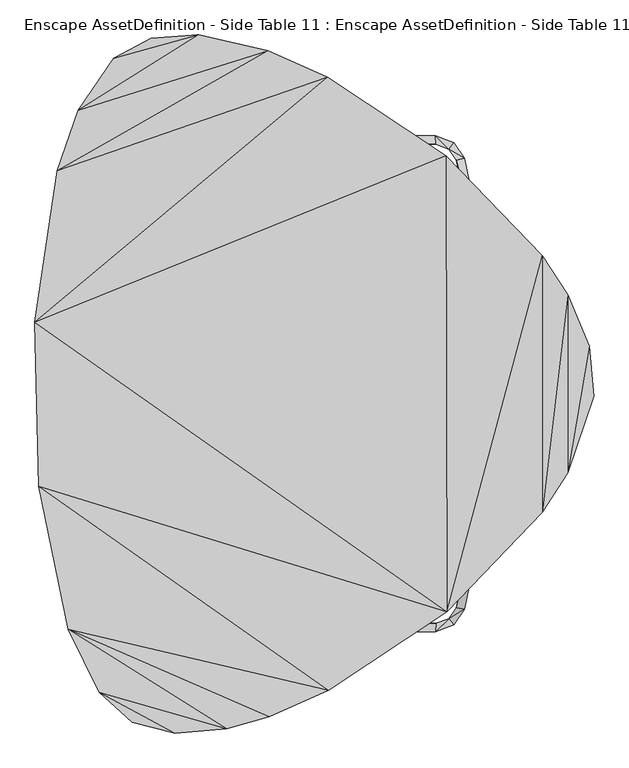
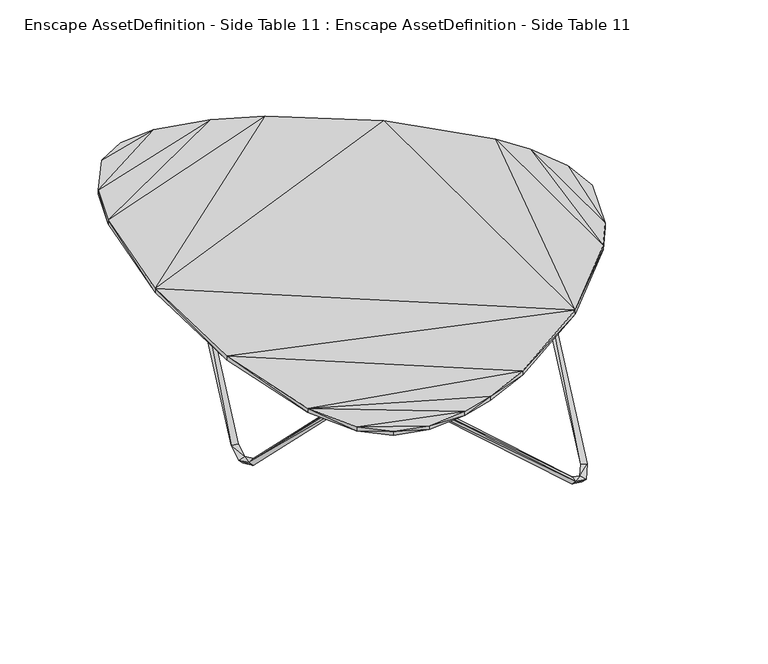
"""IFC4 building model written with IfcOpenShell, lengths in millimetres: geographic element geometry, Enscape AssetDefinition - Side Table 11 : Enscape AssetDefinition - Side Table 11."""

from ifc_helpers import new_model, si_unit, origin, place, context, project, spatial, faceted_brep, source, transform, mapped, element, save


def enscape_assetdefinition_side_table_11_enscape_a87c3a88(model_context):
    return source(origin(), model_context, "Body", "Brep", [
        faceted_brep([(205.7259977, 350.7379889, 379.9839914), (-427.0290136, 94.9010029, 379.9839914), (206.6459954, -350.3859937, 379.9839914), (-392.5279975, 327.8779984, 379.9839914), (-427.0290136, 94.9010029, 371.1839914), (-421.4819968, -157.7380002, 379.9839914), (-421.4819968, -157.7380002, 371.1839914), (23.6499999, 471.8019962, 379.9839914), (25.1160003, -471.4139998, 371.1839914), (-376.0179877, -377.4029911, 371.1839914), (206.6459954, -350.3859937, 371.1839914), (-376.0179877, -377.4029911, 379.9839914), (25.1160003, -471.4139998, 379.9839914), (-327.8470039, -474.2639959, 379.9839914), (-327.8470039, -474.2639959, 371.1839914), (-131.8739951, -530.1719904, 379.9839914), (-66.7430013, -511.605978, 379.9839914), (-131.8739951, -530.1719904, 371.1839914), (-66.7430013, -511.605978, 371.1839914), (-211.1169994, -536.9719863, 379.9839914), (-277.125001, -520.1489925, 379.9839914), (-211.1169994, -536.9719863, 371.1839914), (-277.125001, -520.1489925, 371.1839914), (205.7259977, 350.7379889, 371.1839914), (353.7909985, 197.243005, 371.1839914), (354.1939855, -197.0770061, 371.1839914), (23.6499999, 471.8019962, 371.1839914), (-392.5279975, 327.8779984, 371.1839914), (-360.217005, 420.5459952, 379.9839914), (-68.4499964, 511.9400024, 371.1839914), (-360.217005, 420.5459952, 371.1839914), (-68.4499964, 511.9400024, 379.9839914), (-174.8600006, 536.5440249, 371.1839914), (-306.0970008, 500.6989837, 379.9839914), (-306.0970008, 500.6989837, 371.1839914), (-174.8600006, 536.5440249, 379.9839914), (-248.0569929, 531.4959884, 371.1839914), (-248.0569929, 531.4959884, 379.9839914), (353.7909985, 197.243005, 379.9839914), (392.8259909, 137.0559931, 379.9839914), (354.1939855, -197.0770061, 379.9839914), (392.8259909, 137.0559931, 371.1839914), (426.2450039, 57.4310012, 379.9839914), (393.19399, -137.0400041, 379.9839914), (393.19399, -137.0400041, 371.1839914), (426.2450039, 57.4310012, 371.1839914), (433.2799911, -18.9980008, 379.9839914), (433.2799911, -18.9980008, 371.1839914)], [[[0, 1, 2]], [[1, 3, 4]], [[5, 1, 6]], [[1, 5, 2]], [[1, 0, 7]], [[3, 1, 7]], [[6, 1, 4]], [[8, 9, 6]], [[10, 6, 4]], [[10, 8, 6]], [[9, 5, 6]], [[11, 5, 9]], [[5, 12, 2]], [[12, 5, 11]], [[13, 11, 14]], [[15, 11, 13]], [[11, 15, 16]], [[11, 16, 12]], [[14, 11, 9]], [[2, 12, 10]], [[12, 16, 8]], [[10, 12, 8]], [[15, 17, 16]], [[16, 17, 18]], [[8, 16, 18]], [[15, 19, 17]], [[19, 15, 13]], [[13, 14, 20]], [[19, 13, 20]], [[19, 20, 21]], [[17, 19, 21]], [[17, 14, 9]], [[9, 18, 17]], [[14, 17, 21]], [[9, 8, 18]], [[21, 22, 14]], [[20, 14, 22]], [[21, 20, 22]], [[23, 10, 4]], [[10, 23, 24]], [[24, 25, 10]], [[25, 2, 10]], [[26, 4, 27]], [[4, 26, 23]], [[4, 3, 27]], [[3, 28, 27]], [[29, 27, 30]], [[27, 29, 26]], [[27, 28, 30]], [[7, 0, 26]], [[26, 0, 23]], [[29, 7, 26]], [[31, 7, 29]], [[30, 32, 29]], [[32, 31, 29]], [[28, 33, 30]], [[32, 30, 34]], [[30, 33, 34]], [[35, 31, 32]], [[32, 34, 36]], [[36, 35, 32]], [[3, 7, 31]], [[28, 31, 35]], [[31, 28, 3]], [[37, 35, 36]], [[33, 35, 37]], [[33, 28, 35]], [[33, 37, 34]], [[34, 37, 36]], [[0, 38, 23]], [[23, 38, 24]], [[38, 39, 24]], [[38, 2, 40]], [[40, 39, 38]], [[2, 38, 0]], [[25, 24, 41]], [[24, 39, 41]], [[39, 42, 41]], [[39, 40, 43]], [[42, 39, 43]], [[43, 40, 44]], [[40, 2, 25]], [[44, 40, 25]], [[41, 44, 25]], [[44, 41, 45]], [[41, 42, 45]], [[42, 46, 45]], [[42, 43, 46]], [[43, 44, 46]], [[44, 45, 47]], [[46, 44, 47]], [[45, 46, 47]]]),
        faceted_brep([(289.6220088, 0.0, 368.8029945), (287.2610092, 28.3659995, 356.7520082), (296.292007, 0.0, 357.6659858), (221.3249952, 343.9840078, 24.3909992), (294.3179905, 24.9690004, 346.9859958), (300.3889918, 30.3259995, 356.3280106), (287.2520089, -28.4550004, 356.8530083), (300.3970087, -30.2370004, 356.2270105), (302.8939962, 0.0, 368.799001), (234.2700064, 346.7119932, 23.2369993), (228.3239961, 340.8100009, 14.4109996), (210.0470066, 361.1029983, 13.2050002), (217.6329941, 370.5840111, 8.4060002), (212.5229985, 363.6179864, 0.161), (189.2620027, 381.2479973, 20.3230008), (185.4559928, 373.7010062, 11.647), (189.914003, 368.140012, 22.3469995), (-192.4719959, 381.2479973, 358.4710062), (-195.5990046, 373.6959994, 349.2619991), (-190.6419992, 368.140012, 359.5679998), (-211.7960006, 360.6559932, 369.0569997), (-215.940997, 366.5600121, 358.4649861), (-219.8230028, 371.0309863, 370.0410128), (-235.7909977, 347.9979932, 355.6599915), (-223.7419933, 342.6980078, 357.4199975), (-227.3409963, 349.2760062, 347.1829891), (-301.9149899, 31.5820016, 22.5409996), (-289.6730006, 27.1109995, 25.0870008), (-293.374002, 33.2340002, 14.4210001), (-291.9490039, 0.0, 13.6430003), (-304.5049906, 0.0, 9.4630001), (-296.0749865, 0.0, 0.76), (-301.9070029, -31.5940008, 22.5249995), (-293.3540046, -33.2270004, 14.4250002), (-289.6809876, -27.098, 25.1030009), (-223.7530053, -342.6800072, 357.4419916), (-227.3139954, -349.2639959, 347.1870124), (-235.7800007, -348.0159938, 355.6379974), (-211.7950022, -360.6509864, 369.1079915), (-215.9100026, -366.5190041, 358.4620059), (-219.8240012, -371.0359931, 369.9899912), (-192.5169975, -381.2359869, 358.4130108), (-190.5969977, -368.1519926, 359.6259952), (-195.5890059, -373.6230135, 349.2679894), (189.9659932, -368.1519926, 22.4099997), (189.2099977, -381.2350035, 20.2590004), (185.4609996, -373.6189902, 11.6600003), (210.0680023, -361.1389995, 13.2999998), (217.6129967, -370.5480099, 8.3109997), (212.4630064, -363.5439873, 0.2), (234.2790067, -346.6250002, 23.1449995), (228.2010019, -340.7840133, 14.4220004), (221.3159949, -344.0699875, 24.4830009), (294.1839993, -24.9499995, 346.9910026)], [[[0, 1, 2]], [[1, 3, 4]], [[1, 5, 3]], [[2, 1, 4]], [[0, 5, 1]], [[6, 7, 0]], [[8, 5, 0]], [[0, 7, 8]], [[2, 6, 0]], [[5, 4, 9]], [[8, 2, 5]], [[5, 2, 4]], [[3, 5, 9]], [[9, 4, 10]], [[4, 3, 10]], [[3, 9, 11]], [[3, 11, 10]], [[9, 10, 12]], [[11, 9, 12]], [[10, 11, 13]], [[12, 10, 13]], [[12, 14, 11]], [[13, 11, 15]], [[11, 14, 16]], [[15, 11, 16]], [[13, 15, 12]], [[12, 15, 14]], [[14, 17, 16]], [[15, 18, 14]], [[14, 18, 17]], [[15, 16, 18]], [[16, 17, 19]], [[18, 16, 19]], [[19, 17, 20]], [[18, 21, 17]], [[20, 17, 22]], [[17, 21, 22]], [[18, 19, 21]], [[21, 19, 20]], [[22, 23, 20]], [[20, 24, 21]], [[20, 23, 24]], [[22, 21, 23]], [[21, 24, 25]], [[23, 21, 25]], [[23, 26, 24]], [[23, 25, 26]], [[24, 27, 25]], [[24, 26, 27]], [[26, 25, 28]], [[25, 27, 28]], [[27, 26, 29]], [[26, 28, 30]], [[29, 26, 30]], [[27, 29, 28]], [[28, 29, 31]], [[30, 28, 31]], [[30, 32, 29]], [[31, 29, 33]], [[29, 32, 34]], [[33, 29, 34]], [[31, 33, 30]], [[30, 33, 32]], [[34, 32, 35]], [[33, 36, 32]], [[35, 32, 37]], [[32, 36, 37]], [[33, 34, 36]], [[36, 34, 35]], [[35, 37, 38]], [[36, 35, 39]], [[39, 35, 38]], [[36, 39, 37]], [[38, 37, 40]], [[37, 39, 40]], [[40, 41, 38]], [[38, 42, 39]], [[38, 41, 42]], [[40, 39, 41]], [[39, 42, 43]], [[41, 39, 43]], [[42, 41, 44]], [[41, 43, 45]], [[44, 41, 45]], [[42, 44, 43]], [[45, 43, 46]], [[43, 44, 46]], [[44, 45, 47]], [[44, 47, 46]], [[45, 46, 48]], [[47, 45, 48]], [[46, 47, 49]], [[48, 46, 49]], [[48, 50, 47]], [[49, 47, 51]], [[47, 50, 52]], [[51, 47, 52]], [[49, 51, 48]], [[48, 51, 50]], [[50, 7, 52]], [[51, 53, 50]], [[50, 53, 7]], [[51, 52, 53]], [[52, 7, 6]], [[53, 52, 6]], [[53, 2, 7]], [[7, 2, 8]], [[53, 6, 2]]]),
    ])


if __name__ == "__main__":
    model = new_model("IFC4")
    model_context = context("Model", 3, world=origin())
    ifc_project = project(units=[si_unit("LENGTHUNIT", "METRE", prefix="MILLI")], contexts=[model_context])
    site = spatial("IfcSite", under=ifc_project)
    building = spatial("IfcBuilding", under=site)
    placement = place(None, origin())
    enscape_assetdefinition_side_table_11_enscape_shape = enscape_assetdefinition_side_table_11_enscape_a87c3a88(model_context)
    element("IfcGeographicElement", 1, ObjectType="Enscape AssetDefinition - Side Table 11 : Enscape AssetDefinition - Side Table 11", at=placement, inside=building, context=model_context, shape_type="MappedRepresentation", body=[
        mapped(enscape_assetdefinition_side_table_11_enscape_shape, transform((0.0, 0.0, 0.0), x_axis=(1.0, 0.0, 0.0), y_axis=(0.0, 1.0, 0.0), z_axis=(0.0, 0.0, 1.0))),
    ])
    save(model, "model.ifc")
